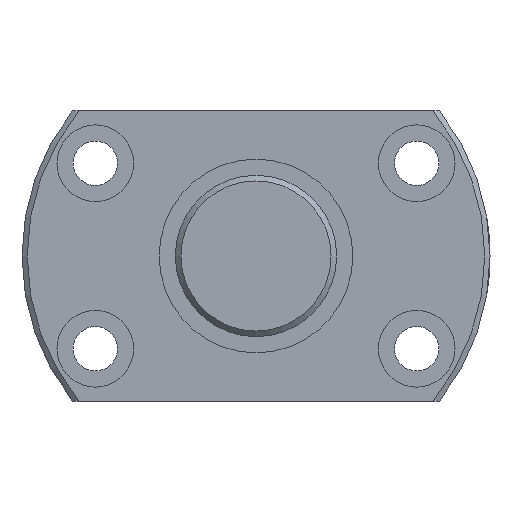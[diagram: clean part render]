
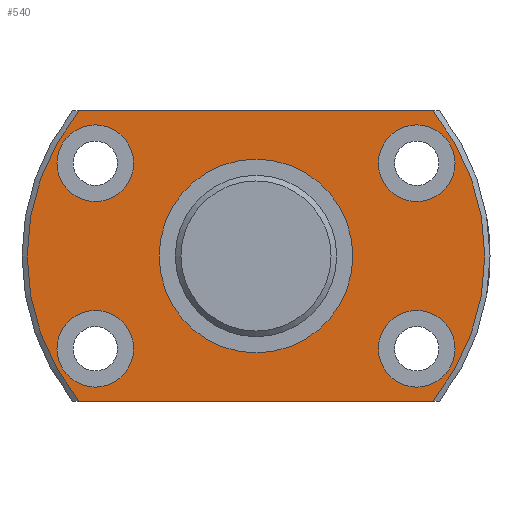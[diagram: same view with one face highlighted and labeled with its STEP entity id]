
A CAD part, left-side view. The second image highlights one B-rep face of the part: STEP entity #540.
In plain terms, the highlighted planar face has unit normal (-1, 0, 0).
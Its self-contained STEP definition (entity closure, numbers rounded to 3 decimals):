
#28=LINE('',#893,#36);
#29=LINE('',#898,#37);
#36=VECTOR('',#721,1000.);
#37=VECTOR('',#724,1000.);
#91=ORIENTED_EDGE('',*,*,#207,.T.);
#92=ORIENTED_EDGE('',*,*,#208,.T.);
#93=ORIENTED_EDGE('',*,*,#209,.T.);
#94=ORIENTED_EDGE('',*,*,#210,.T.);
#95=ORIENTED_EDGE('',*,*,#211,.T.);
#96=ORIENTED_EDGE('',*,*,#212,.F.);
#97=ORIENTED_EDGE('',*,*,#213,.T.);
#98=ORIENTED_EDGE('',*,*,#214,.F.);
#99=ORIENTED_EDGE('',*,*,#215,.T.);
#207=EDGE_CURVE('',#267,#267,#319,.T.);
#208=EDGE_CURVE('',#268,#268,#320,.T.);
#209=EDGE_CURVE('',#269,#269,#321,.T.);
#210=EDGE_CURVE('',#270,#270,#322,.T.);
#211=EDGE_CURVE('',#271,#271,#323,.T.);
#212=EDGE_CURVE('',#272,#273,#28,.T.);
#213=EDGE_CURVE('',#272,#274,#324,.F.);
#214=EDGE_CURVE('',#275,#274,#29,.T.);
#215=EDGE_CURVE('',#275,#273,#325,.F.);
#267=VERTEX_POINT('',#884);
#268=VERTEX_POINT('',#886);
#269=VERTEX_POINT('',#888);
#270=VERTEX_POINT('',#890);
#271=VERTEX_POINT('',#892);
#272=VERTEX_POINT('',#894);
#273=VERTEX_POINT('',#895);
#274=VERTEX_POINT('',#897);
#275=VERTEX_POINT('',#899);
#319=CIRCLE('',#613,12.);
#320=CIRCLE('',#614,4.75);
#321=CIRCLE('',#615,4.75);
#322=CIRCLE('',#616,4.75);
#323=CIRCLE('',#617,4.75);
#324=CIRCLE('',#618,28.35);
#325=CIRCLE('',#619,28.35);
#365=EDGE_LOOP('',(#91));
#366=EDGE_LOOP('',(#92));
#367=EDGE_LOOP('',(#93));
#368=EDGE_LOOP('',(#94));
#369=EDGE_LOOP('',(#95));
#370=EDGE_LOOP('',(#96,#97,#98,#99));
#447=FACE_BOUND('',#365,.T.);
#448=FACE_BOUND('',#366,.T.);
#449=FACE_BOUND('',#367,.T.);
#450=FACE_BOUND('',#368,.T.);
#451=FACE_BOUND('',#369,.T.);
#452=FACE_BOUND('',#370,.T.);
#523=PLANE('',#612);
#540=ADVANCED_FACE('',(#447,#448,#449,#450,#451,#452),#523,.F.);
#612=AXIS2_PLACEMENT_3D('',#882,#709,#710);
#613=AXIS2_PLACEMENT_3D('',#883,#711,#712);
#614=AXIS2_PLACEMENT_3D('',#885,#713,#714);
#615=AXIS2_PLACEMENT_3D('',#887,#715,#716);
#616=AXIS2_PLACEMENT_3D('',#889,#717,#718);
#617=AXIS2_PLACEMENT_3D('',#891,#719,#720);
#618=AXIS2_PLACEMENT_3D('',#896,#722,#723);
#619=AXIS2_PLACEMENT_3D('',#900,#725,#726);
#709=DIRECTION('',(1.,0.,0.));
#710=DIRECTION('',(0.,0.,-1.));
#711=DIRECTION('',(1.,0.,0.));
#712=DIRECTION('',(0.,0.,-1.));
#713=DIRECTION('',(1.,0.,0.));
#714=DIRECTION('',(0.,0.,-1.));
#715=DIRECTION('',(1.,0.,0.));
#716=DIRECTION('',(0.,0.,-1.));
#717=DIRECTION('',(1.,0.,0.));
#718=DIRECTION('',(0.,0.,-1.));
#719=DIRECTION('',(1.,0.,0.));
#720=DIRECTION('',(0.,0.,-1.));
#721=DIRECTION('',(0.,1.,0.));
#722=DIRECTION('',(1.,0.,0.));
#723=DIRECTION('',(0.,0.,-1.));
#724=DIRECTION('',(0.,-1.,0.));
#725=DIRECTION('',(1.,0.,0.));
#726=DIRECTION('',(0.,0.,-1.));
#882=CARTESIAN_POINT('',(0.,0.,0.));
#883=CARTESIAN_POINT('',(0.,0.,0.));
#884=CARTESIAN_POINT('',(0.,0.,-12.));
#885=CARTESIAN_POINT('',(0.,19.919,-11.5));
#886=CARTESIAN_POINT('',(0.,19.919,-16.25));
#887=CARTESIAN_POINT('',(0.,-19.919,11.5));
#888=CARTESIAN_POINT('',(0.,-19.919,6.75));
#889=CARTESIAN_POINT('',(0.,-19.919,-11.5));
#890=CARTESIAN_POINT('',(0.,-19.919,-16.25));
#891=CARTESIAN_POINT('',(0.,19.919,11.5));
#892=CARTESIAN_POINT('',(0.,19.919,6.75));
#893=CARTESIAN_POINT('',(0.,-22.738,-18.));
#894=CARTESIAN_POINT('',(0.,-21.903,-18.));
#895=CARTESIAN_POINT('',(0.,21.903,-18.));
#896=CARTESIAN_POINT('',(0.,0.,0.));
#897=CARTESIAN_POINT('',(0.,-21.903,18.));
#898=CARTESIAN_POINT('',(0.,22.738,18.));
#899=CARTESIAN_POINT('',(0.,21.903,18.));
#900=CARTESIAN_POINT('',(0.,0.,0.));
